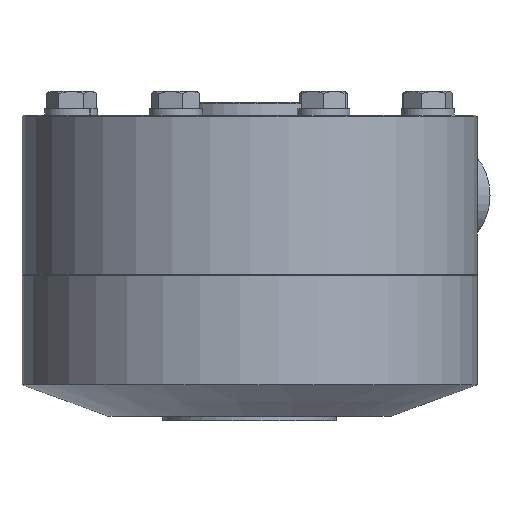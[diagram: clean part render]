
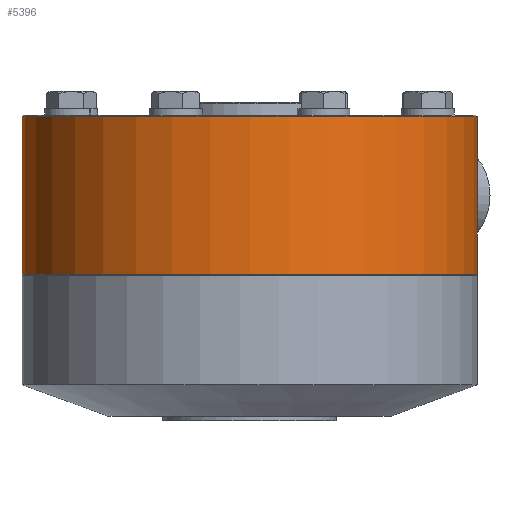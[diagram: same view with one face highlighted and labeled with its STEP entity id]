
A CAD part, left-side view. The second image highlights one B-rep face of the part: STEP entity #5396.
In plain terms, the highlighted cylindrical face has radius 52.5 mm (diameter 105 mm), a full revolution.
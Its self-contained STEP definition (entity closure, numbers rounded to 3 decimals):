
#132=CYLINDRICAL_SURFACE('',#5745,52.5);
#443=LINE('',#8081,#743);
#445=LINE('',#8086,#745);
#743=VECTOR('',#6726,1000.);
#745=VECTOR('',#6728,1000.);
#1806=ORIENTED_EDGE('',*,*,#2376,.T.);
#1807=ORIENTED_EDGE('',*,*,#2377,.T.);
#1808=ORIENTED_EDGE('',*,*,#2374,.F.);
#1809=ORIENTED_EDGE('',*,*,#2378,.T.);
#1810=ORIENTED_EDGE('',*,*,#2372,.F.);
#1811=ORIENTED_EDGE('',*,*,#2379,.T.);
#2372=EDGE_CURVE('',#2730,#2731,#443,.F.);
#2374=EDGE_CURVE('',#2732,#2733,#445,.T.);
#2376=EDGE_CURVE('',#2734,#2734,#2863,.F.);
#2377=EDGE_CURVE('',#2735,#2735,#2864,.T.);
#2378=EDGE_CURVE('',#2732,#2731,#2865,.F.);
#2379=EDGE_CURVE('',#2730,#2733,#2866,.F.);
#2730=VERTEX_POINT('',#8082);
#2731=VERTEX_POINT('',#8083);
#2732=VERTEX_POINT('',#8085);
#2733=VERTEX_POINT('',#8087);
#2734=VERTEX_POINT('',#8091);
#2735=VERTEX_POINT('',#8094);
#2863=CIRCLE('',#5744,52.5);
#2864=CIRCLE('',#5746,52.5);
#2865=CIRCLE('',#5747,52.5);
#2866=CIRCLE('',#5748,52.5);
#3155=EDGE_LOOP('',(#1806));
#3156=EDGE_LOOP('',(#1807));
#3157=EDGE_LOOP('',(#1808,#1809,#1810,#1811));
#3480=FACE_BOUND('',#3155,.T.);
#3481=FACE_BOUND('',#3156,.T.);
#3482=FACE_BOUND('',#3157,.T.);
#5396=ADVANCED_FACE('',(#3480,#3481,#3482),#132,.T.);
#5744=AXIS2_PLACEMENT_3D('',#8090,#6732,#6733);
#5745=AXIS2_PLACEMENT_3D('',#8092,#6734,#6735);
#5746=AXIS2_PLACEMENT_3D('',#8093,#6736,#6737);
#5747=AXIS2_PLACEMENT_3D('',#8095,#6738,#6739);
#5748=AXIS2_PLACEMENT_3D('',#8096,#6740,#6741);
#6726=DIRECTION('',(0.,0.,-1.));
#6728=DIRECTION('',(0.,0.,-1.));
#6732=DIRECTION('',(0.,0.,-1.));
#6733=DIRECTION('',(-1.,0.,0.));
#6734=DIRECTION('',(0.,0.,-1.));
#6735=DIRECTION('',(-1.,0.,0.));
#6736=DIRECTION('',(0.,0.,-1.));
#6737=DIRECTION('',(-1.,0.,0.));
#6738=DIRECTION('',(0.,0.,-1.));
#6739=DIRECTION('',(-1.,0.,0.));
#6740=DIRECTION('',(0.,0.,1.));
#6741=DIRECTION('',(0.,-1.,0.));
#8081=CARTESIAN_POINT('',(46.675,-24.036,20.));
#8082=CARTESIAN_POINT('',(46.675,-24.036,-17.5));
#8083=CARTESIAN_POINT('',(46.675,-24.036,14.5));
#8085=CARTESIAN_POINT('',(24.036,-46.675,14.5));
#8086=CARTESIAN_POINT('',(24.036,-46.675,20.));
#8087=CARTESIAN_POINT('',(24.036,-46.675,-17.5));
#8090=CARTESIAN_POINT('',(0.,0.,-19.7));
#8091=CARTESIAN_POINT('',(-52.5,0.,-19.7));
#8092=CARTESIAN_POINT('',(0.,0.,20.));
#8093=CARTESIAN_POINT('',(0.,0.,16.7));
#8094=CARTESIAN_POINT('',(-52.5,0.,16.7));
#8095=CARTESIAN_POINT('',(0.,0.,14.5));
#8096=CARTESIAN_POINT('',(0.,0.,-17.5));
